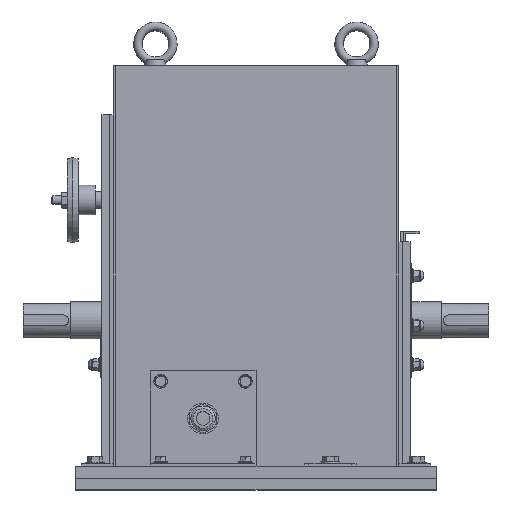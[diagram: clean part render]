
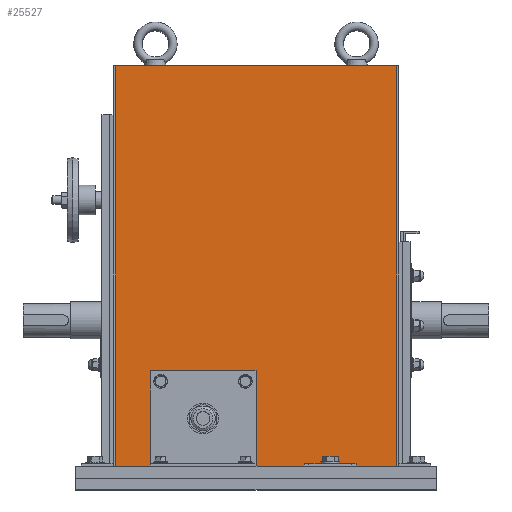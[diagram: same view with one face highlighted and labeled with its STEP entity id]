
A CAD part, top view. The second image highlights one B-rep face of the part: STEP entity #25527.
In plain terms, the highlighted planar face has unit normal (0, 0, 1).
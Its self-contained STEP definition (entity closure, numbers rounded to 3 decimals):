
#270 = VECTOR ( 'NONE', #24034, 1000. ) ;
#294 = CARTESIAN_POINT ( 'NONE',  ( 87.3, -138., 175. ) ) ;
#376 = DIRECTION ( 'NONE',  ( 1., 0., 0. ) ) ;
#480 = PLANE ( 'NONE',  #12960 ) ;
#917 = VERTEX_POINT ( 'NONE', #25532 ) ;
#1550 = ORIENTED_EDGE ( 'NONE', *, *, #16644, .T. ) ;
#1607 = VERTEX_POINT ( 'NONE', #16845 ) ;
#1997 = DIRECTION ( 'NONE',  ( 1., 0., 0. ) ) ;
#2476 = EDGE_CURVE ( 'NONE', #12870, #11152, #19885, .T. ) ;
#2803 = VERTEX_POINT ( 'NONE', #17898 ) ;
#3101 = ORIENTED_EDGE ( 'NONE', *, *, #24330, .T. ) ;
#3202 = ORIENTED_EDGE ( 'NONE', *, *, #7657, .T. ) ;
#4027 = CARTESIAN_POINT ( 'NONE',  ( 87.3, 240., 175. ) ) ;
#4204 = LINE ( 'NONE', #28603, #13859 ) ;
#4526 = DIRECTION ( 'NONE',  ( 0., 1., 0. ) ) ;
#4966 = CARTESIAN_POINT ( 'NONE',  ( 120., -48., 175. ) ) ;
#4999 = CARTESIAN_POINT ( 'NONE',  ( 87.3, -138., 175. ) ) ;
#5091 = DIRECTION ( 'NONE',  ( -1., 0., 0. ) ) ;
#5160 = CARTESIAN_POINT ( 'NONE',  ( 265.4, -135.7, 175. ) ) ;
#5479 = CARTESIAN_POINT ( 'NONE',  ( 314.6, -135.7, 175. ) ) ;
#5769 = VERTEX_POINT ( 'NONE', #27196 ) ;
#6165 = LINE ( 'NONE', #29081, #28699 ) ;
#6640 = VECTOR ( 'NONE', #17450, 1000. ) ;
#6730 = ORIENTED_EDGE ( 'NONE', *, *, #7144, .F. ) ;
#6909 = CARTESIAN_POINT ( 'NONE',  ( 87.3, -138., 175. ) ) ;
#6910 = EDGE_CURVE ( 'NONE', #28030, #11152, #4204, .T. ) ;
#7127 = ORIENTED_EDGE ( 'NONE', *, *, #29437, .T. ) ;
#7144 = EDGE_CURVE ( 'NONE', #8265, #20817, #26406, .T. ) ;
#7657 = EDGE_CURVE ( 'NONE', #2803, #28030, #21592, .T. ) ;
#7913 = CARTESIAN_POINT ( 'NONE',  ( 120., -138., 175. ) ) ;
#8053 = CARTESIAN_POINT ( 'NONE',  ( 270., -135.7, 175. ) ) ;
#8196 = VERTEX_POINT ( 'NONE', #29398 ) ;
#8265 = VERTEX_POINT ( 'NONE', #5160 ) ;
#8305 = CARTESIAN_POINT ( 'NONE',  ( 120., -138., 175. ) ) ;
#8631 = DIRECTION ( 'NONE',  ( 0., 1., 0. ) ) ;
#8869 = CARTESIAN_POINT ( 'NONE',  ( 352.7, 240., 175. ) ) ;
#9092 = VECTOR ( 'NONE', #4526, 1000. ) ;
#9101 = ORIENTED_EDGE ( 'NONE', *, *, #13710, .F. ) ;
#9424 = ORIENTED_EDGE ( 'NONE', *, *, #20283, .F. ) ;
#9818 = ORIENTED_EDGE ( 'NONE', *, *, #12213, .F. ) ;
#9894 = ORIENTED_EDGE ( 'NONE', *, *, #25406, .F. ) ;
#10291 = LINE ( 'NONE', #8053, #12463 ) ;
#10336 = VECTOR ( 'NONE', #376, 1000. ) ;
#11152 = VERTEX_POINT ( 'NONE', #8869 ) ;
#11716 = ORIENTED_EDGE ( 'NONE', *, *, #12032, .T. ) ;
#11841 = DIRECTION ( 'NONE',  ( -1., 0., 0. ) ) ;
#12032 = EDGE_CURVE ( 'NONE', #20061, #20817, #26055, .T. ) ;
#12118 = DIRECTION ( 'NONE',  ( 1., 0., 0. ) ) ;
#12213 = EDGE_CURVE ( 'NONE', #20061, #8196, #24521, .T. ) ;
#12463 = VECTOR ( 'NONE', #19444, 1000. ) ;
#12870 = VERTEX_POINT ( 'NONE', #17381 ) ;
#12960 = AXIS2_PLACEMENT_3D ( 'NONE', #18877, #25175, #5091 ) ;
#13120 = CARTESIAN_POINT ( 'NONE',  ( 220., -138., 175. ) ) ;
#13710 = EDGE_CURVE ( 'NONE', #8196, #1607, #22662, .T. ) ;
#13859 = VECTOR ( 'NONE', #19790, 1000. ) ;
#14243 = VECTOR ( 'NONE', #26226, 1000. ) ;
#14454 = EDGE_CURVE ( 'NONE', #5769, #14507, #28515, .T. ) ;
#14507 = VERTEX_POINT ( 'NONE', #24337 ) ;
#15567 = ORIENTED_EDGE ( 'NONE', *, *, #2476, .F. ) ;
#15959 = LINE ( 'NONE', #4999, #10336 ) ;
#16644 = EDGE_CURVE ( 'NONE', #23501, #28689, #15959, .T. ) ;
#16845 = CARTESIAN_POINT ( 'NONE',  ( 120., -48., 175. ) ) ;
#17071 = CARTESIAN_POINT ( 'NONE',  ( 87.3, -138., 175. ) ) ;
#17381 = CARTESIAN_POINT ( 'NONE',  ( 87.3, 240., 175. ) ) ;
#17450 = DIRECTION ( 'NONE',  ( 0., -1., 0. ) ) ;
#17898 = CARTESIAN_POINT ( 'NONE',  ( 314.6, -138., 175. ) ) ;
#17977 = CARTESIAN_POINT ( 'NONE',  ( 220., -138., 175. ) ) ;
#18775 = CARTESIAN_POINT ( 'NONE',  ( 265.4, -138., 175. ) ) ;
#18877 = CARTESIAN_POINT ( 'NONE',  ( 87.3, -138., 175. ) ) ;
#19080 = VECTOR ( 'NONE', #22144, 1000. ) ;
#19391 = ORIENTED_EDGE ( 'NONE', *, *, #14454, .F. ) ;
#19415 = LINE ( 'NONE', #5479, #26983 ) ;
#19444 = DIRECTION ( 'NONE',  ( -1., 0., 0. ) ) ;
#19571 = ORIENTED_EDGE ( 'NONE', *, *, #6910, .T. ) ;
#19671 = DIRECTION ( 'NONE',  ( 0., -1., 0. ) ) ;
#19790 = DIRECTION ( 'NONE',  ( 0., 1., 0. ) ) ;
#19885 = LINE ( 'NONE', #4027, #19080 ) ;
#20061 = VERTEX_POINT ( 'NONE', #17977 ) ;
#20125 = LINE ( 'NONE', #6909, #9092 ) ;
#20283 = EDGE_CURVE ( 'NONE', #917, #8265, #10291, .T. ) ;
#20584 = VECTOR ( 'NONE', #19671, 1000. ) ;
#20817 = VERTEX_POINT ( 'NONE', #18775 ) ;
#20975 = CARTESIAN_POINT ( 'NONE',  ( 87.3, -138., 175. ) ) ;
#21592 = LINE ( 'NONE', #17071, #14243 ) ;
#21944 = CARTESIAN_POINT ( 'NONE',  ( 310., -135.7, 175. ) ) ;
#22105 = ORIENTED_EDGE ( 'NONE', *, *, #23007, .F. ) ;
#22144 = DIRECTION ( 'NONE',  ( 1., 0., 0. ) ) ;
#22662 = LINE ( 'NONE', #4966, #25710 ) ;
#23007 = EDGE_CURVE ( 'NONE', #1607, #28689, #29428, .T. ) ;
#23215 = FACE_OUTER_BOUND ( 'NONE', #28320, .T. ) ;
#23348 = VECTOR ( 'NONE', #12118, 1000. ) ;
#23501 = VERTEX_POINT ( 'NONE', #294 ) ;
#24034 = DIRECTION ( 'NONE',  ( -1., 0., 0. ) ) ;
#24330 = EDGE_CURVE ( 'NONE', #917, #14507, #6165, .T. ) ;
#24337 = CARTESIAN_POINT ( 'NONE',  ( 310., -135.7, 175. ) ) ;
#24521 = LINE ( 'NONE', #13120, #24838 ) ;
#24838 = VECTOR ( 'NONE', #8631, 1000. ) ;
#25175 = DIRECTION ( 'NONE',  ( 0., 0., -1. ) ) ;
#25406 = EDGE_CURVE ( 'NONE', #23501, #12870, #20125, .T. ) ;
#25527 = ADVANCED_FACE ( 'NONE', ( #23215 ), #480, .F. ) ;
#25532 = CARTESIAN_POINT ( 'NONE',  ( 270., -135.7, 175. ) ) ;
#25698 = DIRECTION ( 'NONE',  ( 0., -1., 0. ) ) ;
#25710 = VECTOR ( 'NONE', #11841, 1000. ) ;
#26055 = LINE ( 'NONE', #20975, #23348 ) ;
#26226 = DIRECTION ( 'NONE',  ( 1., 0., 0. ) ) ;
#26406 = LINE ( 'NONE', #26846, #20584 ) ;
#26846 = CARTESIAN_POINT ( 'NONE',  ( 265.4, -135.7, 175. ) ) ;
#26923 = CARTESIAN_POINT ( 'NONE',  ( 352.7, -138., 175. ) ) ;
#26983 = VECTOR ( 'NONE', #25698, 1000. ) ;
#27196 = CARTESIAN_POINT ( 'NONE',  ( 314.6, -135.7, 175. ) ) ;
#28030 = VERTEX_POINT ( 'NONE', #26923 ) ;
#28320 = EDGE_LOOP ( 'NONE', ( #1550, #22105, #9101, #9818, #11716, #6730, #9424, #3101, #19391, #7127, #3202, #19571, #15567, #9894 ) ) ;
#28515 = LINE ( 'NONE', #21944, #270 ) ;
#28603 = CARTESIAN_POINT ( 'NONE',  ( 352.7, -138., 175. ) ) ;
#28689 = VERTEX_POINT ( 'NONE', #7913 ) ;
#28699 = VECTOR ( 'NONE', #1997, 1000. ) ;
#29081 = CARTESIAN_POINT ( 'NONE',  ( 270., -135.7, 175. ) ) ;
#29398 = CARTESIAN_POINT ( 'NONE',  ( 220., -48., 175. ) ) ;
#29428 = LINE ( 'NONE', #8305, #6640 ) ;
#29437 = EDGE_CURVE ( 'NONE', #5769, #2803, #19415, .T. ) ;
